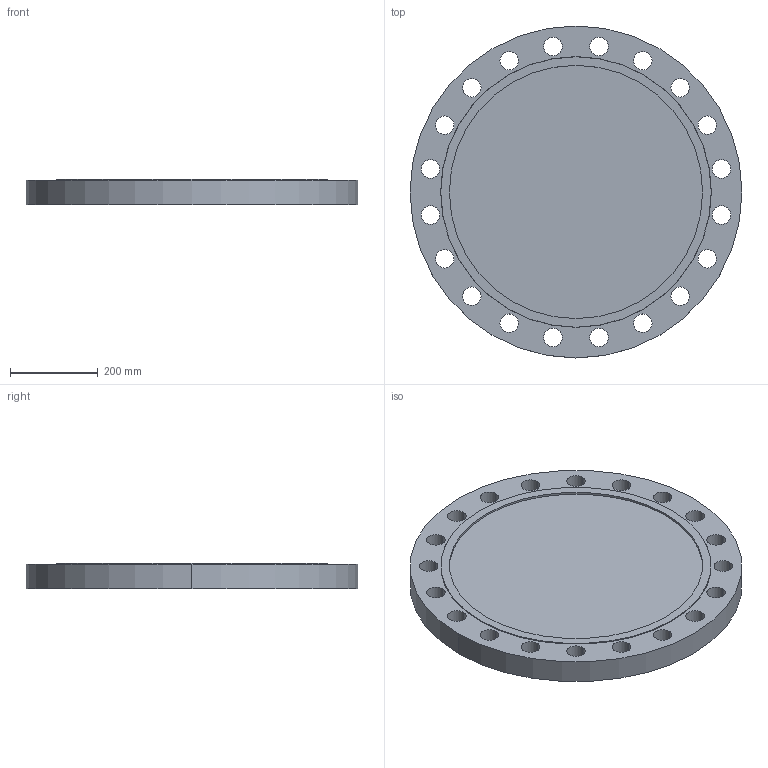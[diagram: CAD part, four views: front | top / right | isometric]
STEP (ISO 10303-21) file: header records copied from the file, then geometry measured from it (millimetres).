
FILE_DESCRIPTION (( 'STEP AP214' ), '1' );
FILE_NAME ('PN40 DN500 Type 05 - Type F Face.STEP', '2018-12-29T01:30:28', ( '' ), ( '' ), 'SwSTEP 2.0', 'SolidWorks 2019', '' );
FILE_SCHEMA (( 'AUTOMOTIVE_DESIGN' ));
Length unit declared in the file: millimetre
Products named in the file (1): PN40 DN500 Type 05 - Type F Face
Bounding box: 755 x 755 x 57 mm (x, y, z)
Volume: 22391240.5 mm3; surface area: 1127863.8 mm2
Topology: 1 solids, 1 shells, 50 faces, 138 edges, 92 vertices
Faces by surface type: cylinder 44, plane 4, cone 2
Entity records: 1768 total; most frequent: DIRECTION 332, CARTESIAN_POINT 281, ORIENTED_EDGE 276, AXIS2_PLACEMENT_3D 143, EDGE_CURVE 138, CIRCLE 92, VERTEX_POINT 92, EDGE_LOOP 92
